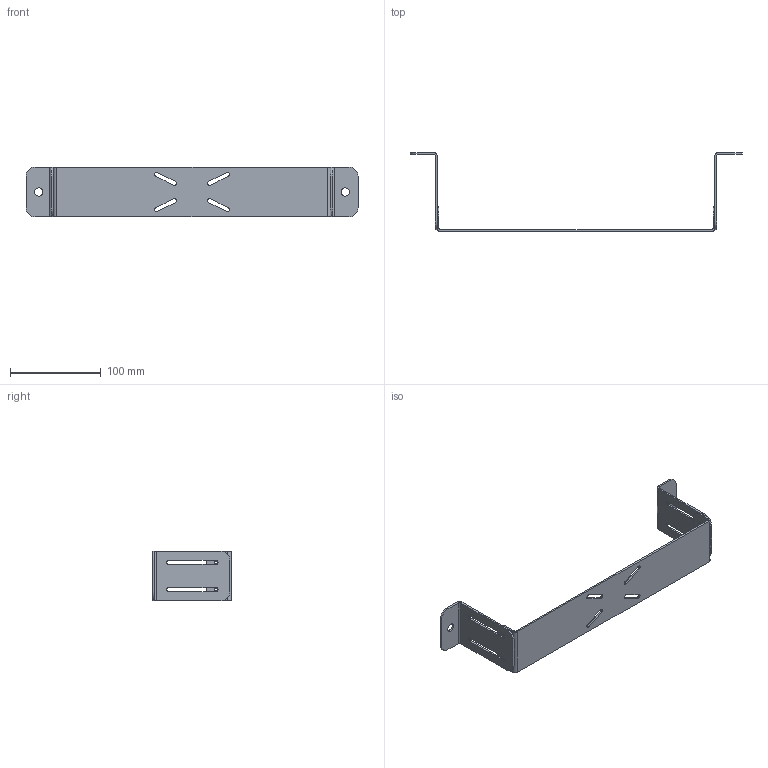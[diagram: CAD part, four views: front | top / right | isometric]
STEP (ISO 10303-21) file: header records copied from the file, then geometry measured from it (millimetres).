
FILE_DESCRIPTION (( 'STEP AP214' ), '1' );
FILE_NAME ('CM_DLP_300.STEP', '2015-11-13T18:14:38', ( '' ), ( '' ), 'SwSTEP 2.0', 'SolidWorks 2015', '' );
FILE_SCHEMA (( 'AUTOMOTIVE_DESIGN' ));
Length unit declared in the file: inch
Products named in the file (3): CM_DLP_Leg; CM_DLP_Brace_190_300; CM_DLP_300
Assembly tree (3 placements, depth 2):
  CM_DLP_300
    CM_DLP_Brace_190_300
    CM_DLP_Leg  x2
Bounding box: 365.55 x 86.87 x 55 mm (x, y, z)
Volume: 56612.1 mm3; surface area: 63914.4 mm2
Topology: 3 solids, 3 shells, 110 faces, 280 edges, 176 vertices
Faces by surface type: plane 58, cylinder 52
Entity records: 2762 total; most frequent: DIRECTION 466, CARTESIAN_POINT 430, ORIENTED_EDGE 420, EDGE_CURVE 210, AXIS2_PLACEMENT_3D 168, VERTEX_POINT 132, LINE 130, VECTOR 130
